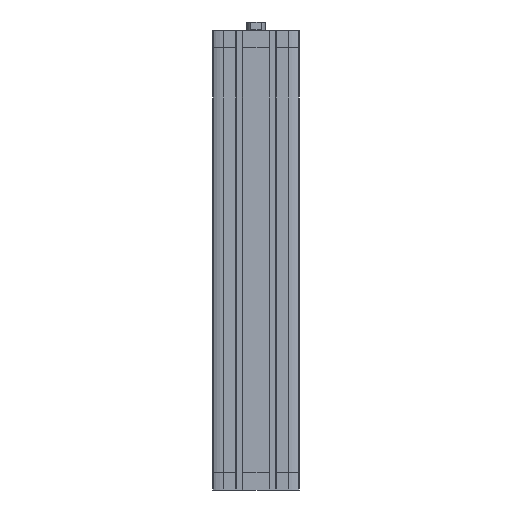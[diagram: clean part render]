
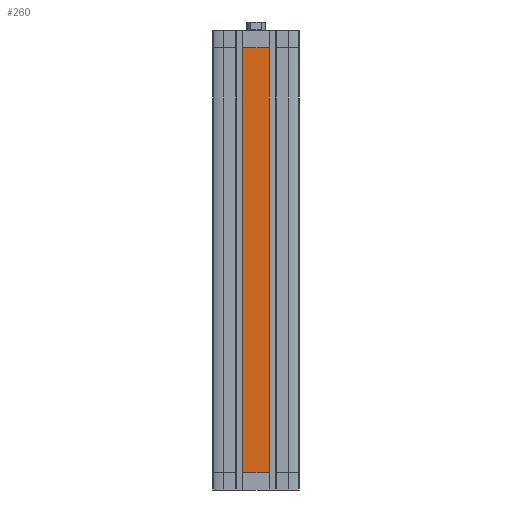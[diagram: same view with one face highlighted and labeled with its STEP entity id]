
A CAD part, front view. The second image highlights one B-rep face of the part: STEP entity #260.
In plain terms, the highlighted planar face has unit normal (0, -1, 0).
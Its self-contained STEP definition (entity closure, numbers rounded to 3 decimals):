
#12 = DIRECTION ( 'NONE',  ( 0., 0., 1. ) ) ;
#128 = LINE ( 'NONE', #12488, #2852 ) ;
#260 = ADVANCED_FACE ( 'NONE', ( #12630 ), #13129, .T. ) ;
#607 = AXIS2_PLACEMENT_3D ( 'NONE', #12952, #13160, #13223 ) ;
#681 = EDGE_CURVE ( 'NONE', #1941, #10378, #5547, .T. ) ;
#1382 = EDGE_LOOP ( 'NONE', ( #6414, #8854, #1450, #12422 ) ) ;
#1450 = ORIENTED_EDGE ( 'NONE', *, *, #3965, .T. ) ;
#1941 = VERTEX_POINT ( 'NONE', #6216 ) ;
#2094 = VECTOR ( 'NONE', #14771, 1000. ) ;
#2852 = VECTOR ( 'NONE', #4220, 1000. ) ;
#3408 = CARTESIAN_POINT ( 'NONE',  ( 11.4, -37.5, -384. ) ) ;
#3578 = EDGE_CURVE ( 'NONE', #10378, #5943, #128, .T. ) ;
#3657 = LINE ( 'NONE', #14267, #12556 ) ;
#3965 = EDGE_CURVE ( 'NONE', #9025, #1941, #5721, .T. ) ;
#4220 = DIRECTION ( 'NONE',  ( 1., 0., 0. ) ) ;
#4933 = DIRECTION ( 'NONE',  ( -1., 0., 0. ) ) ;
#5547 = LINE ( 'NONE', #15187, #2094 ) ;
#5721 = LINE ( 'NONE', #7278, #11511 ) ;
#5943 = VERTEX_POINT ( 'NONE', #3408 ) ;
#6104 = CARTESIAN_POINT ( 'NONE',  ( 11.4, -37.5, -15. ) ) ;
#6216 = CARTESIAN_POINT ( 'NONE',  ( -11.4, -37.5, -15. ) ) ;
#6414 = ORIENTED_EDGE ( 'NONE', *, *, #3578, .T. ) ;
#7278 = CARTESIAN_POINT ( 'NONE',  ( 0., -37.5, -15. ) ) ;
#8854 = ORIENTED_EDGE ( 'NONE', *, *, #11674, .T. ) ;
#9025 = VERTEX_POINT ( 'NONE', #6104 ) ;
#10378 = VERTEX_POINT ( 'NONE', #12296 ) ;
#11511 = VECTOR ( 'NONE', #4933, 1000. ) ;
#11674 = EDGE_CURVE ( 'NONE', #5943, #9025, #3657, .T. ) ;
#12296 = CARTESIAN_POINT ( 'NONE',  ( -11.4, -37.5, -384. ) ) ;
#12422 = ORIENTED_EDGE ( 'NONE', *, *, #681, .T. ) ;
#12488 = CARTESIAN_POINT ( 'NONE',  ( -11.4, -37.5, -384. ) ) ;
#12556 = VECTOR ( 'NONE', #12, 1000. ) ;
#12630 = FACE_OUTER_BOUND ( 'NONE', #1382, .T. ) ;
#12952 = CARTESIAN_POINT ( 'NONE',  ( -11.4, -37.5, -384. ) ) ;
#13129 = PLANE ( 'NONE',  #607 ) ;
#13160 = DIRECTION ( 'NONE',  ( 0., -1., 0. ) ) ;
#13223 = DIRECTION ( 'NONE',  ( 0., 0., -1. ) ) ;
#14267 = CARTESIAN_POINT ( 'NONE',  ( 11.4, -37.5, -384. ) ) ;
#14771 = DIRECTION ( 'NONE',  ( 0., 0., -1. ) ) ;
#15187 = CARTESIAN_POINT ( 'NONE',  ( -11.4, -37.5, -384. ) ) ;
